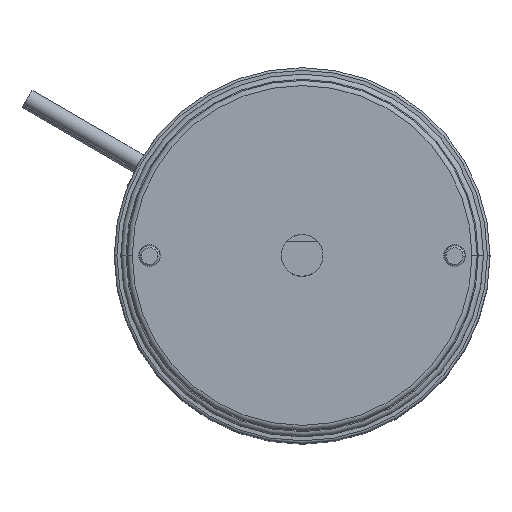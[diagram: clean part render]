
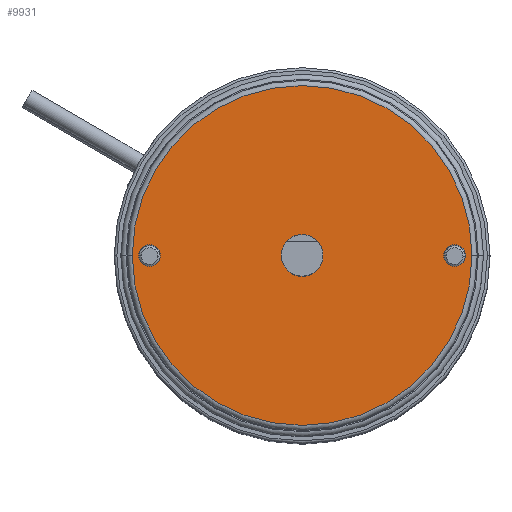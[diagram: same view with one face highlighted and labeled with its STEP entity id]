
A CAD part, top view. The second image highlights one B-rep face of the part: STEP entity #9931.
In plain terms, the highlighted planar face has unit normal (0, 0, 1).
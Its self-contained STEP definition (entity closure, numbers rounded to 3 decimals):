
#257 = EDGE_LOOP ( 'NONE', ( #12759, #8608 ) ) ;
#269 = CIRCLE ( 'NONE', #4436, 2.1 ) ;
#347 = FACE_BOUND ( 'NONE', #257, .T. ) ;
#442 = EDGE_LOOP ( 'NONE', ( #5377, #13503 ) ) ;
#521 = CARTESIAN_POINT ( 'NONE',  ( 0., 0., 113.5 ) ) ;
#795 = EDGE_CURVE ( 'NONE', #5858, #10653, #6986, .T. ) ;
#849 = DIRECTION ( 'NONE',  ( 1., 0., 0. ) ) ;
#866 = EDGE_CURVE ( 'NONE', #9528, #10797, #9263, .T. ) ;
#1480 = EDGE_LOOP ( 'NONE', ( #7413, #13060 ) ) ;
#1546 = CARTESIAN_POINT ( 'NONE',  ( -32.55, 0., 113.5 ) ) ;
#1670 = DIRECTION ( 'NONE',  ( 1., 0., 0. ) ) ;
#1827 = CARTESIAN_POINT ( 'NONE',  ( 0., 0., 113.5 ) ) ;
#1951 = CIRCLE ( 'NONE', #12414, 4. ) ;
#2350 = VERTEX_POINT ( 'NONE', #1546 ) ;
#2523 = DIRECTION ( 'NONE',  ( 0., 0., 1. ) ) ;
#2606 = EDGE_CURVE ( 'NONE', #9374, #3422, #13538, .T. ) ;
#2886 = AXIS2_PLACEMENT_3D ( 'NONE', #521, #8340, #1670 ) ;
#2977 = DIRECTION ( 'NONE',  ( 1., 0., 0. ) ) ;
#3022 = FACE_BOUND ( 'NONE', #442, .T. ) ;
#3257 = ORIENTED_EDGE ( 'NONE', *, *, #2606, .F. ) ;
#3386 = CARTESIAN_POINT ( 'NONE',  ( 29.228, 0., 113.5 ) ) ;
#3422 = VERTEX_POINT ( 'NONE', #14282 ) ;
#3521 = CARTESIAN_POINT ( 'NONE',  ( -31.328, 0., 113.5 ) ) ;
#3555 = DIRECTION ( 'NONE',  ( 0., 0., 1. ) ) ;
#3591 = DIRECTION ( 'NONE',  ( 0., 0., 1. ) ) ;
#3945 = CIRCLE ( 'NONE', #2886, 32.55 ) ;
#4112 = AXIS2_PLACEMENT_3D ( 'NONE', #14189, #7547, #849 ) ;
#4259 = CARTESIAN_POINT ( 'NONE',  ( 0., 0., 113.5 ) ) ;
#4397 = DIRECTION ( 'NONE',  ( 1., 0., 0. ) ) ;
#4436 = AXIS2_PLACEMENT_3D ( 'NONE', #10191, #3555, #11309 ) ;
#4655 = EDGE_CURVE ( 'NONE', #8563, #2350, #3945, .T. ) ;
#5050 = EDGE_CURVE ( 'NONE', #10797, #9528, #9125, .T. ) ;
#5309 = AXIS2_PLACEMENT_3D ( 'NONE', #9172, #2523, #10274 ) ;
#5372 = DIRECTION ( 'NONE',  ( 1., 0., 0. ) ) ;
#5377 = ORIENTED_EDGE ( 'NONE', *, *, #5050, .F. ) ;
#5500 = EDGE_CURVE ( 'NONE', #3422, #9374, #1951, .T. ) ;
#5559 = DIRECTION ( 'NONE',  ( 0., 0., 1. ) ) ;
#5858 = VERTEX_POINT ( 'NONE', #9540 ) ;
#6089 = CARTESIAN_POINT ( 'NONE',  ( 31.328, 0., 113.5 ) ) ;
#6232 = CIRCLE ( 'NONE', #9414, 32.55 ) ;
#6298 = FACE_BOUND ( 'NONE', #7029, .T. ) ;
#6508 = CARTESIAN_POINT ( 'NONE',  ( 32.55, 0., 113.5 ) ) ;
#6986 = CIRCLE ( 'NONE', #9477, 2.1 ) ;
#7029 = EDGE_LOOP ( 'NONE', ( #3257, #10839 ) ) ;
#7413 = ORIENTED_EDGE ( 'NONE', *, *, #4655, .T. ) ;
#7490 = PLANE ( 'NONE',  #4112 ) ;
#7547 = DIRECTION ( 'NONE',  ( 0., 0., 1. ) ) ;
#7744 = DIRECTION ( 'NONE',  ( 1., 0., 0. ) ) ;
#7770 = EDGE_CURVE ( 'NONE', #10653, #5858, #269, .T. ) ;
#8340 = DIRECTION ( 'NONE',  ( 0., 0., 1. ) ) ;
#8444 = CARTESIAN_POINT ( 'NONE',  ( -29.228, 0., 113.5 ) ) ;
#8563 = VERTEX_POINT ( 'NONE', #6508 ) ;
#8608 = ORIENTED_EDGE ( 'NONE', *, *, #795, .F. ) ;
#8925 = FACE_OUTER_BOUND ( 'NONE', #1480, .T. ) ;
#9125 = CIRCLE ( 'NONE', #5309, 2.1 ) ;
#9172 = CARTESIAN_POINT ( 'NONE',  ( 29.228, 0., 113.5 ) ) ;
#9263 = CIRCLE ( 'NONE', #10954, 2.1 ) ;
#9374 = VERTEX_POINT ( 'NONE', #11350 ) ;
#9414 = AXIS2_PLACEMENT_3D ( 'NONE', #1827, #9623, #2977 ) ;
#9428 = DIRECTION ( 'NONE',  ( 1., 0., 0. ) ) ;
#9477 = AXIS2_PLACEMENT_3D ( 'NONE', #8444, #13969, #9428 ) ;
#9528 = VERTEX_POINT ( 'NONE', #6089 ) ;
#9540 = CARTESIAN_POINT ( 'NONE',  ( -27.128, 0., 113.5 ) ) ;
#9623 = DIRECTION ( 'NONE',  ( 0., 0., 1. ) ) ;
#9931 = ADVANCED_FACE ( 'NONE', ( #3022, #347, #8925, #6298 ), #7490, .T. ) ;
#10191 = CARTESIAN_POINT ( 'NONE',  ( -29.228, 0., 113.5 ) ) ;
#10274 = DIRECTION ( 'NONE',  ( 1., 0., 0. ) ) ;
#10653 = VERTEX_POINT ( 'NONE', #3521 ) ;
#10797 = VERTEX_POINT ( 'NONE', #11521 ) ;
#10839 = ORIENTED_EDGE ( 'NONE', *, *, #5500, .F. ) ;
#10937 = EDGE_CURVE ( 'NONE', #2350, #8563, #6232, .T. ) ;
#10954 = AXIS2_PLACEMENT_3D ( 'NONE', #3386, #5559, #4397 ) ;
#11309 = DIRECTION ( 'NONE',  ( 1., 0., 0. ) ) ;
#11338 = CARTESIAN_POINT ( 'NONE',  ( 0., 0., 113.5 ) ) ;
#11350 = CARTESIAN_POINT ( 'NONE',  ( -4., 0., 113.5 ) ) ;
#11521 = CARTESIAN_POINT ( 'NONE',  ( 27.128, 0., 113.5 ) ) ;
#12020 = DIRECTION ( 'NONE',  ( 0., 0., 1. ) ) ;
#12414 = AXIS2_PLACEMENT_3D ( 'NONE', #4259, #12020, #5372 ) ;
#12759 = ORIENTED_EDGE ( 'NONE', *, *, #7770, .F. ) ;
#13060 = ORIENTED_EDGE ( 'NONE', *, *, #10937, .T. ) ;
#13388 = AXIS2_PLACEMENT_3D ( 'NONE', #11338, #3591, #7744 ) ;
#13503 = ORIENTED_EDGE ( 'NONE', *, *, #866, .F. ) ;
#13538 = CIRCLE ( 'NONE', #13388, 4. ) ;
#13969 = DIRECTION ( 'NONE',  ( 0., 0., 1. ) ) ;
#14189 = CARTESIAN_POINT ( 'NONE',  ( 0., 0., 113.5 ) ) ;
#14282 = CARTESIAN_POINT ( 'NONE',  ( 4., 0., 113.5 ) ) ;
